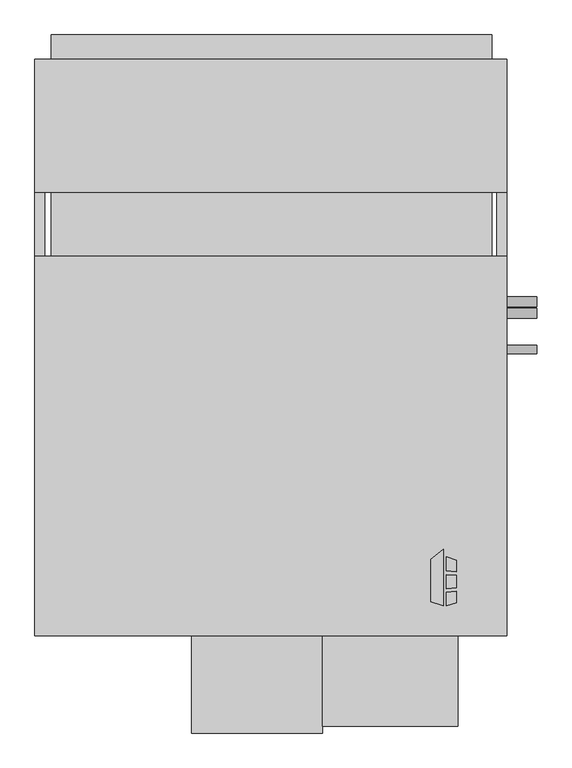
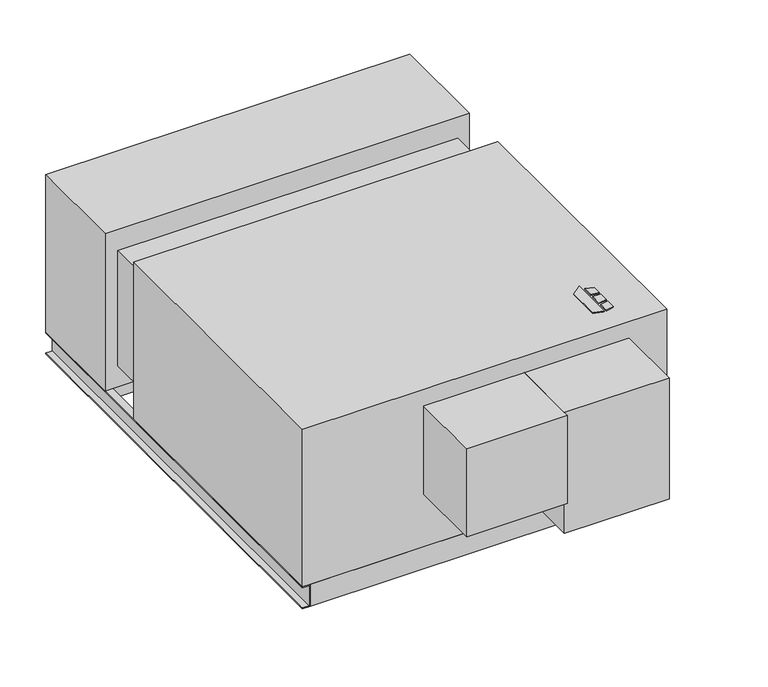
"""IFC4 building model written with IfcOpenShell, lengths in millimetres: proxy geometry, Horizontal_Direct_Drive_Blower_Coil_Unit_-_HDY_-_IEC_-_2-Pipe_Cool-EHeat_NFilterR_W-MixingBox_RH_2022 : Size 16 - 460v/60Hz/3Ph - 8 Row 16.0kW LH."""

from ifc_helpers import new_model, si_unit, point, frame, frame_2d, origin, origin_with_axes, place, context, project, spatial, polyline, circle_curve, trimmed, segment, composite_curve, outline, extrude, source, transform, mapped, element, save


def mechanical_equipment_fb961167(model_context):
    return source(origin(), model_context, "Body", "SweptSolid", [
        extrude(outline(polyline([(-65.3980239, -274.0078476), (-32.8397272, -248.5705184), (-32.8397272, -390.525), (-65.3980239, -380.3054201), (-65.3980239, -274.0078476)])), origin_with_axes(), (0.0, 0.0, 1.0), 3.175),
        extrude(outline(polyline([(-26.0813942, -301.879852), (-26.0813942, -267.3999379), (0.0, -275.5865115), (0.0, -305.0822446), (-26.0813942, -301.879852)])), origin_with_axes(), (0.0, 0.0, 1.0), 3.175),
        extrude(outline(polyline([(0.0, -383.5365115), (-26.0813942, -390.525), (-26.0813942, -357.3036996), (0.0, -353.7618564), (0.0, -383.5365115)])), origin_with_axes(), (0.0, 0.0, 1.0), 3.175),
        extrude(outline(polyline([(0.0, -314.1638277), (0.0, -345.413983), (-26.0813942, -348.155248), (-26.0813942, -312.2975378), (0.0, -314.1638277)])), origin_with_axes(), (0.0, 0.0, 1.0), 3.175),
        extrude(outline(polyline([(88.9, 889.635), (88.9, 686.435), (-1025.525, 686.435), (-1025.525, 889.635), (88.9, 889.635)])), frame((0.0, 0.0, -607.06), z_axis=(0.0, 0.0, 1.0), x_axis=(1.0, 0.0, 0.0)), (0.0, 0.0, 1.0), 60.96),
        extrude(outline(polyline([(-1025.525, 1052.195), (88.9, 1052.195), (88.9, 991.235), (-1025.525, 991.235), (-1025.525, 1052.195)])), frame((0.0, 0.0, -279.4), z_axis=(0.0, 0.0, 1.0), x_axis=(1.0, 0.0, 0.0)), (0.0, 0.0, 1.0), 203.2),
        extrude(outline(polyline([(127.0, 991.235), (127.0, 654.05), (-1066.8, 654.05), (-1066.8, 991.235), (127.0, 991.235)])), frame((0.0, 0.0, -546.1), z_axis=(0.0, 0.0, 1.0), x_axis=(1.0, 0.0, 0.0)), (0.0, 0.0, 1.0), 546.1),
        extrude(outline(polyline([(101.6, -441.325), (101.6, -466.725), (-1041.4, -466.725), (-1041.4, -441.325), (101.6, -441.325)])), frame((0.0, 0.0, -622.3), z_axis=(0.0, 0.0, 1.0), x_axis=(1.0, 0.0, 0.0)), (0.0, 0.0, 1.0), 76.2),
        extrude(outline(polyline([(101.6, 991.235), (101.6, 965.835), (-1041.4, 965.835), (-1041.4, 991.235), (101.6, 991.235)])), frame((0.0, 0.0, -622.3), z_axis=(0.0, 0.0, 1.0), x_axis=(1.0, 0.0, 0.0)), (0.0, 0.0, 1.0), 76.2),
        extrude(outline(polyline([(-546.1, -1041.4), (-546.1, -1066.8), (-549.275, -1066.8), (-549.275, -1044.575), (-619.125, -1044.575), (-619.125, -1066.8), (-622.3, -1066.8), (-622.3, -1041.4), (-546.1, -1041.4)])), frame((0.0, -466.725, 0.0), z_axis=(0.0, 1.0, 0.0), x_axis=(0.0, 0.0, 1.0)), (0.0, 0.0, 1.0), 1457.96),
        extrude(outline(polyline([(-546.1, 101.6), (-622.3, 101.6), (-622.3, 127.0), (-619.125, 127.0), (-619.125, 104.775), (-549.275, 104.775), (-549.275, 127.0), (-546.1, 127.0), (-546.1, 101.6)])), frame((0.0, -466.725, 0.0), z_axis=(0.0, 1.0, 0.0), x_axis=(0.0, 0.0, 1.0)), (0.0, 0.0, 1.0), 1457.96),
        extrude(outline(composite_curve([segment(trimmed(circle_curve(frame_2d((377.825, -177.8)), 12.7), [point((390.525, -177.8))], [point((365.125, -177.8))], False, "CARTESIAN"), True, "CONTINUOUS"), segment(trimmed(circle_curve(frame_2d((377.825, -177.8)), 12.7), [point((365.125, -177.8))], [point((390.525, -177.8))], False, "CARTESIAN"), True, "CONTINUOUS")], self_intersect=False)), frame((127.0, 0.0, 0.0), z_axis=(1.0, 0.0, 0.0), x_axis=(0.0, 1.0, 0.0)), (0.0, 0.0, 1.0), 76.2),
        extrude(outline(composite_curve([segment(trimmed(circle_curve(frame_2d((348.9715397, -419.1)), 12.7), [point((361.6715397, -419.1))], [point((336.2715397, -419.1))], False, "CARTESIAN"), True, "CONTINUOUS"), segment(trimmed(circle_curve(frame_2d((348.9715397, -419.1)), 12.7), [point((336.2715397, -419.1))], [point((361.6715397, -419.1))], False, "CARTESIAN"), True, "CONTINUOUS")], self_intersect=False)), frame((127.0, 0.0, 0.0), z_axis=(1.0, 0.0, 0.0), x_axis=(0.0, 1.0, 0.0)), (0.0, 0.0, 1.0), 76.2),
        extrude(outline(composite_curve([segment(trimmed(circle_curve(frame_2d((257.175, -501.65)), 11.1125), [point((268.2875, -501.65))], [point((246.0625, -501.65))], False, "CARTESIAN"), True, "CONTINUOUS"), segment(trimmed(circle_curve(frame_2d((257.175, -501.65)), 11.1125), [point((246.0625, -501.65))], [point((268.2875, -501.65))], False, "CARTESIAN"), True, "CONTINUOUS")], self_intersect=False)), frame((127.0, 0.0, 0.0), z_axis=(1.0, 0.0, 0.0), x_axis=(0.0, 1.0, 0.0)), (0.0, 0.0, 1.0), 76.2),
        extrude(outline(polyline([(127.0, 492.125), (127.0, -466.725), (-1066.8, -466.725), (-1066.8, 492.125), (127.0, 492.125)])), frame((0.0, 0.0, -546.1), z_axis=(0.0, 0.0, 1.0), x_axis=(1.0, 0.0, 0.0)), (0.0, 0.0, 1.0), 546.1),
        extrude(outline(polyline([(3.175, -695.325), (-339.725, -695.325), (-339.725, -466.725), (3.175, -466.725), (3.175, -695.325)])), frame((0.0, 0.0, -476.25), z_axis=(0.0, 0.0, 1.0), x_axis=(1.0, 0.0, 0.0)), (0.0, 0.0, 1.0), 419.1),
        extrude(outline(polyline([(-1025.525, 654.05), (88.9, 654.05), (88.9, 492.125), (-1025.525, 492.125), (-1025.525, 654.05)])), frame((0.0, 0.0, -473.075), z_axis=(0.0, 0.0, 1.0), x_axis=(1.0, 0.0, 0.0)), (0.0, 0.0, 1.0), 400.05),
        extrude(outline(polyline([(-339.725, -712.7875), (-669.925, -712.7875), (-669.925, -466.725), (-339.725, -466.725), (-339.725, -712.7875)])), frame((0.0, 0.0, -361.95), z_axis=(0.0, 0.0, 1.0), x_axis=(1.0, 0.0, 0.0)), (0.0, 0.0, 1.0), 304.8),
    ])


if __name__ == "__main__":
    model = new_model("IFC4")
    model_context = context("Model", 3, world=origin())
    ifc_project = project(units=[si_unit("LENGTHUNIT", "METRE", prefix="MILLI")], contexts=[model_context])
    site = spatial("IfcSite", under=ifc_project)
    building = spatial("IfcBuilding", under=site)
    placement = place(None, origin())
    mechanical_equipment_shape = mechanical_equipment_fb961167(model_context)
    element("IfcBuildingElementProxy", 1, Name="Horizontal_Direct_Drive_Blower_Coil_Unit_-_HDY_-_IEC_-_2-Pipe_Cool-EHeat_NFilterR_W-MixingBox_RH_2022 : Size 16 - 460v/60Hz/3Ph - 8 Row 16.0kW LH", ObjectType="Horizontal_Direct_Drive_Blower_Coil_Unit_-_HDY_-_IEC_-_2-Pipe_Cool-EHeat_NFilterR_W-MixingBox_RH_2022 : Size 16 - 460v/60Hz/3Ph - 8 Row 16.0kW LH", at=placement, inside=building, context=model_context, shape_type="MappedRepresentation", body=[
        mapped(mechanical_equipment_shape, transform((0.0, 0.0, 0.0), x_axis=(1.0, 0.0, 0.0), y_axis=(0.0, 1.0, 0.0), z_axis=(0.0, 0.0, 1.0))),
    ])
    save(model, "model.ifc")
